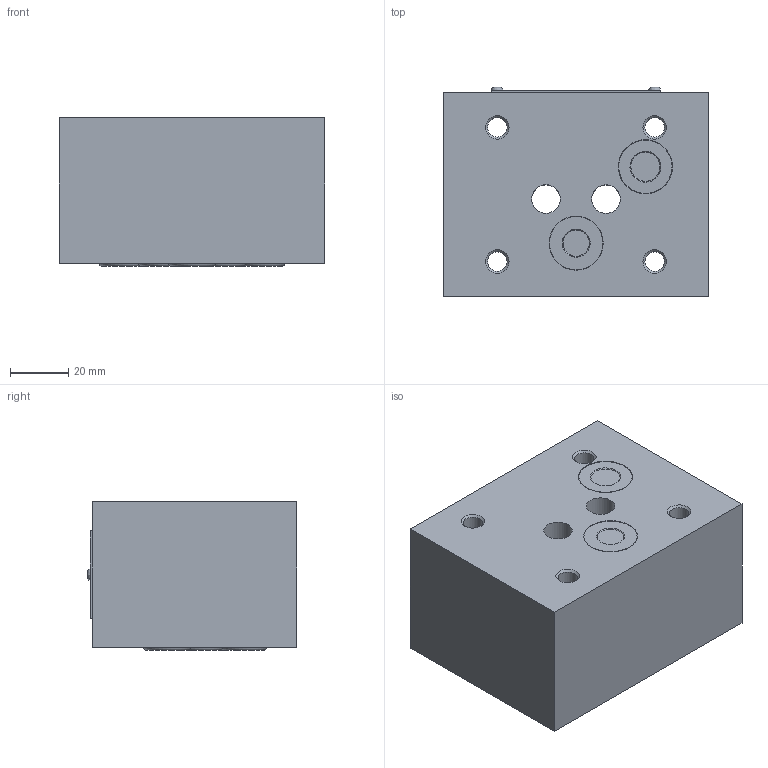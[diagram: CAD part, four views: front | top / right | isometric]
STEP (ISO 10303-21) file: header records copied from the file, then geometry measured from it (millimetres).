
FILE_DESCRIPTION(/* description */ (''),/* implementation_level */ '2;1');
FILE_NAME(/* name */ 'Z1S10F叠加式单向阀.prt.stp',/* time_stamp */ '2022-03-30T19:25:24+08:00',/* author */ (''),/* organization */ (''),/* preprocessor_version */ 'ST-DEVELOPER v16.7',/* originating_system */ 'SIEMENS PLM Software NX 12.0',/* authorisation */ '');
FILE_SCHEMA (('AUTOMOTIVE_DESIGN { 1 0 10303 214 3 1 1 1 }'));
Length unit declared in the file: millimetre
Products named in the file (1): Z1S10F叠加式单向阀
Bounding box: 91 x 71.8 x 51 mm (x, y, z)
Volume: 289630.7 mm3; surface area: 48140.4 mm2
Topology: 11 solids, 11 shells, 93 faces, 185 edges, 117 vertices
Faces by surface type: plane 37, cylinder 29, cone 18, torus 5, bspline 4
Full cylindrical faces by diameter (mm): 1.8 x4, 2 x2, 6.7 x4, 9.8 x4, 10 x2, 15.7 x4, 18 x3, 18.2 x2, 18.3 x2
Entity records: 2276 total; most frequent: CARTESIAN_POINT 432, DIRECTION 376, ORIENTED_EDGE 234, EDGE_LOOP 170, AXIS2_PLACEMENT_3D 169, FACE_BOUND 161, EDGE_CURVE 117, VERTEX_POINT 113
